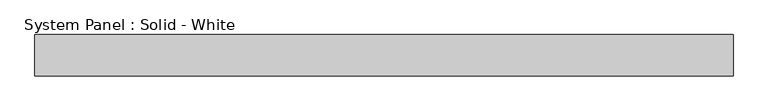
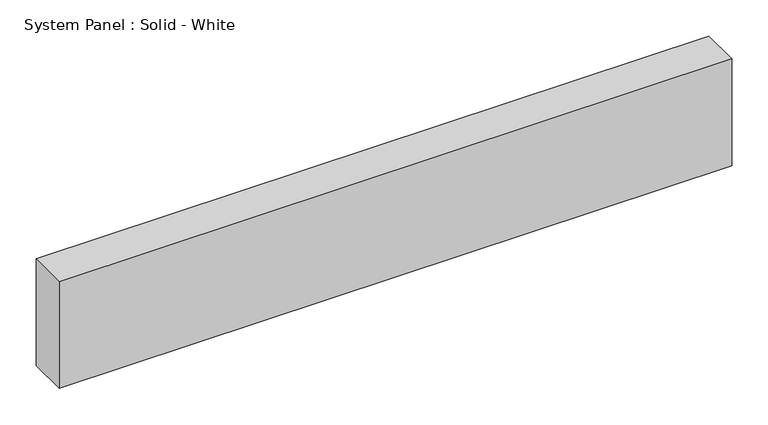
"""IFC4 building model written with IfcOpenShell, lengths in millimetres: plate geometry, System Panel : Solid - White."""

from ifc_helpers import new_model, si_unit, origin, origin_with_axes, place, context, project, spatial, polyline, outline, extrude, source, transform, mapped, element, save


def system_panel_solid_white_9296219a(model_context):
    return source(origin(), model_context, "Body", "SweptSolid", [
        extrude(outline(polyline([(537.9357144, -19.05), (-537.9357144, -19.05), (-537.9357144, 44.45), (537.9357144, 44.45), (537.9357144, -19.05)])), origin_with_axes(), (0.0, 0.0, 1.0), 180.5027241),
    ])


if __name__ == "__main__":
    model = new_model("IFC4")
    model_context = context("Model", 3, world=origin())
    ifc_project = project(units=[si_unit("LENGTHUNIT", "METRE", prefix="MILLI")], contexts=[model_context])
    site = spatial("IfcSite", under=ifc_project)
    building = spatial("IfcBuilding", under=site)
    placement = place(None, origin())
    system_panel_solid_white_shape = system_panel_solid_white_9296219a(model_context)
    element("IfcPlate", 1, ObjectType="System Panel : Solid - White", at=placement, inside=building, context=model_context, shape_type="MappedRepresentation", body=[
        mapped(system_panel_solid_white_shape, transform((0.0, 0.0, 0.0), x_axis=(1.0, 0.0, 0.0), y_axis=(0.0, 1.0, 0.0), z_axis=(0.0, 0.0, 1.0))),
    ])
    save(model, "model.ifc")
